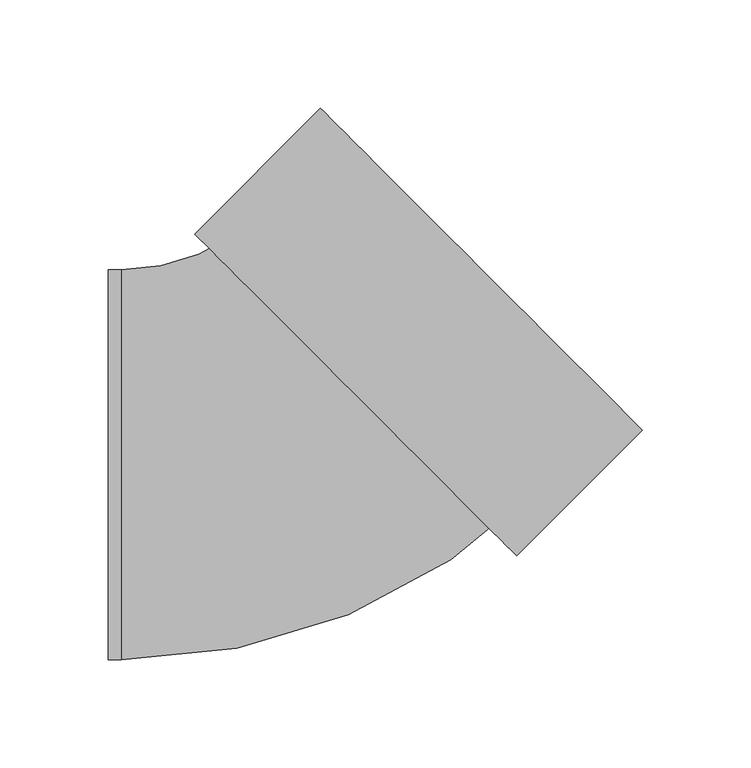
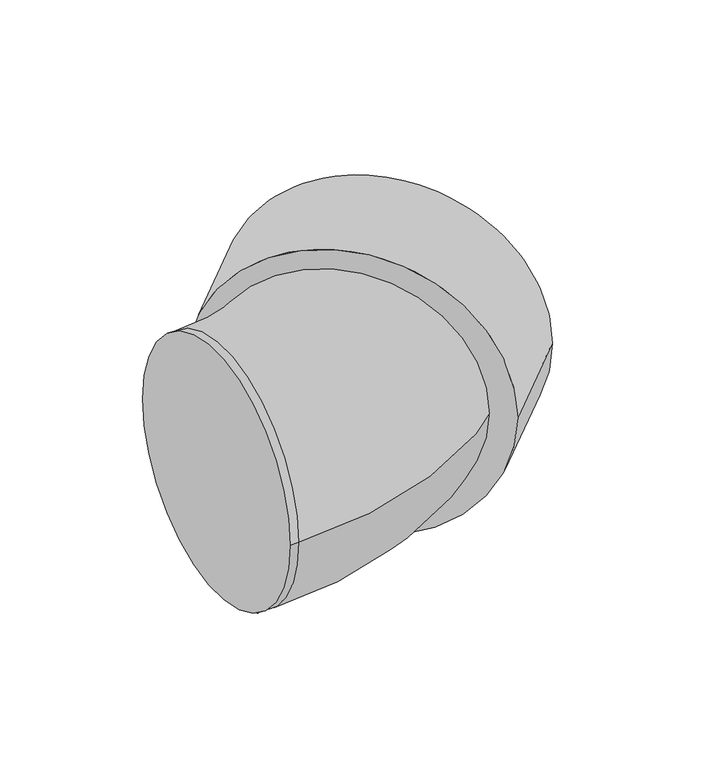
"""IFC4 building model written with IfcOpenShell, lengths in millimetres: duct fitting geometry, NLRS_57_DUF_UN_bend EPP_M&G : ø125 - ø180."""

from ifc_helpers import new_model, si_unit, point, frame, origin, place, context, project, spatial, polyline, circle_curve, ellipse_curve, trimmed, source, transform, mapped, element, save
from ifc_brep_helpers import plane_surface, cylinder_surface, revolved_surface, advanced_brep


def duct_fitting_4bbd28bd(model_context):
    return source(origin(), model_context, "Body", "AdvancedBrep", [
        advanced_brep(
        [(-82.0, -90.0, 0.0), (-82.0, 90.0, 0.0), (-76.0, -90.0, 0.0), (-76.0, 90.0, 0.0), (-9.8994949, 117.3797257, 0.0), (117.3797257, -9.8994949, 0.0), (125.5114537, -1.767767, 0.0), (-1.767767, 125.5114537, 0.0)],
        [
            (0, 1, circle_curve(frame((-82.0, 0.0, 0.0), z_axis=(-1.0, 0.0, 0.0), x_axis=(0.0, 1.0, 0.0)), 90.0)),
            (1, 0, circle_curve(frame((-82.0, 0.0, 0.0), z_axis=(-1.0, 0.0, 0.0), x_axis=(0.0, 1.0, 0.0)), 90.0)),
            (0, 2),
            (2, 3, circle_curve(frame((-76.0, 0.0, 0.0), z_axis=(-1.0, 0.0, 0.0), x_axis=(0.0, 1.0, 0.0)), 90.0)),
            (3, 1),
            (3, 2, circle_curve(frame((-76.0, 0.0, 0.0), z_axis=(-1.0, 0.0, 0.0), x_axis=(0.0, 1.0, 0.0)), 90.0)),
            (4, 3, circle_curve(frame((-76.0, 183.4802307, 0.0), z_axis=(0.0, 0.0, -1.0), x_axis=(0.0, -1.0, 0.0)), 93.4802307)),
            (2, 5, circle_curve(frame((-76.0, 183.4802307, 0.0), z_axis=(0.0, 0.0, 1.0), x_axis=(0.0, -1.0, 0.0)), 273.4802307)),
            (5, 4, circle_curve(frame((53.7401154, 53.7401154, 0.0), z_axis=(-0.7071067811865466, -0.7071067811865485, 0.0), x_axis=(-0.7071067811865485, 0.7071067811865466, 0.0)), 90.0)),
            (4, 5, circle_curve(frame((53.7401154, 53.7401154, 0.0), z_axis=(-0.7071067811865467, -0.7071067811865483, 0.0), x_axis=(-0.7071067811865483, 0.7071067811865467, 0.0)), 90.0)),
            (6, 7, circle_curve(frame((61.8718434, 61.8718434, 0.0), z_axis=(0.7071067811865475, 0.7071067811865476, 0.0), x_axis=(-0.7071067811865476, 0.7071067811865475, 0.0)), 90.0)),
            (7, 6, circle_curve(frame((61.8718434, 61.8718434, 0.0), z_axis=(0.7071067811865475, 0.7071067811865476, 0.0), x_axis=(-0.7071067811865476, 0.7071067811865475, 0.0)), 90.0)),
            (5, 6),
            (7, 4),
        ],
        [
            plane_surface(frame((-82.0, 0.0, 0.0), z_axis=(-1.0, 0.0, 0.0), x_axis=(0.0, 0.0, 1.0))),
            cylinder_surface(frame((-82.0, 0.0, 0.0), z_axis=(-1.0, 0.0, 0.0), x_axis=(0.0, 1.0, 0.0)), 90.0),
            revolved_surface(trimmed(ellipse_curve(frame((-76.0, 0.0, 0.0), z_axis=(-1.0, 0.0, 0.0), x_axis=(0.0, 1.0, 0.0)), 90.0, 90.0), [point((-76.0, -90.0, 0.0))], [point((-76.0, 90.0, 0.0))], True, "CARTESIAN"), (-76.0, 183.4802307, 0.0), (0.0, 0.0, 1.0)),
            revolved_surface(trimmed(ellipse_curve(frame((-76.0, 0.0, 0.0), z_axis=(-1.0, 0.0, 0.0), x_axis=(0.0, 1.0, 0.0)), 90.0, 90.0), [point((-76.0, 90.0, 0.0))], [point((-76.0, -90.0, 0.0))], True, "CARTESIAN"), (-76.0, 183.4802307, 0.0), (0.0, 0.0, 1.0)),
            plane_surface(frame((61.8718434, 61.8718434, 0.0), z_axis=(0.7071067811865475, 0.7071067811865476, 0.0), x_axis=(0.0, 0.0, 1.0))),
            cylinder_surface(frame((53.7401154, 53.7401154, 0.0), z_axis=(-0.7071067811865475, -0.7071067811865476, 0.0), x_axis=(-0.7071067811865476, 0.7071067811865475, 0.0)), 90.0),
        ],
        [
            (0, [[1, 2]]),
            (1, [[-1, 3, 4, 5]]),
            (1, [[-2, -5, 6, -3]]),
            (2, [[7, -4, 8, 9]]),
            (3, [[-8, -6, -7, 10]]),
            (4, [[11, 12]]),
            (5, [[-9, 13, -12, 14]]),
            (5, [[-10, -14, -11, -13]]),
        ],
    ),
        advanced_brep(
        [(106.4195706, -42.0728535, 0.0), (-42.0728535, 106.4195706, 0.0), (164.4023266, 15.9099026, 0.0), (15.9099026, 164.4023266, 0.0), (153.7957249, 26.5165043, 0.0), (26.5165043, 153.7957249, 0.0), (125.5114537, -1.767767, 0.0), (-1.767767, 125.5114537, 0.0)],
        [
            (0, 1, circle_curve(frame((32.1733585, 32.1733585, 0.0), z_axis=(-0.7071067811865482, -0.7071067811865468, 0.0), x_axis=(-0.7071067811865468, 0.7071067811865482, 0.0)), 105.0)),
            (1, 0, circle_curve(frame((32.1733585, 32.1733585, 0.0), z_axis=(-0.7071067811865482, -0.7071067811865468, 0.0), x_axis=(-0.7071067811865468, 0.7071067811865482, 0.0)), 105.0)),
            (2, 3, circle_curve(frame((90.1561146, 90.1561146, 0.0), z_axis=(0.7071067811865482, 0.7071067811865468, 0.0), x_axis=(-0.7071067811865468, 0.7071067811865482, 0.0)), 105.0)),
            (3, 2, circle_curve(frame((90.1561146, 90.1561146, 0.0), z_axis=(0.7071067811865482, 0.7071067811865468, 0.0), x_axis=(-0.7071067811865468, 0.7071067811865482, 0.0)), 105.0)),
            (4, 5, circle_curve(frame((90.1561146, 90.1561146, 0.0), z_axis=(-0.7071067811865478, -0.7071067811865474, 0.0), x_axis=(-0.7071067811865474, 0.7071067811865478, 0.0)), 90.0)),
            (5, 4, circle_curve(frame((90.1561146, 90.1561146, 0.0), z_axis=(-0.7071067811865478, -0.7071067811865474, 0.0), x_axis=(-0.7071067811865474, 0.7071067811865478, 0.0)), 90.0)),
            (0, 2),
            (3, 1),
            (6, 7, circle_curve(frame((61.8718434, 61.8718434, 0.0), z_axis=(0.7071067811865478, 0.7071067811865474, 0.0), x_axis=(-0.7071067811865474, 0.7071067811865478, 0.0)), 90.0)),
            (7, 6, circle_curve(frame((61.8718434, 61.8718434, 0.0), z_axis=(0.7071067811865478, 0.7071067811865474, 0.0), x_axis=(-0.7071067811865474, 0.7071067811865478, 0.0)), 90.0)),
            (7, 5),
            (4, 6),
        ],
        [
            plane_surface(frame((32.1733585, 32.1733585, 0.0), z_axis=(-0.7071067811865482, -0.7071067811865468, 0.0), x_axis=(0.0, 0.0, 1.0))),
            plane_surface(frame((90.1561146, 90.1561146, 0.0), z_axis=(0.7071067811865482, 0.7071067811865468, 0.0), x_axis=(0.0, 0.0, 1.0))),
            cylinder_surface(frame((32.1733585, 32.1733585, 0.0), z_axis=(-0.7071067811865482, -0.7071067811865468, 0.0), x_axis=(-0.7071067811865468, 0.7071067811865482, 0.0)), 105.0),
            plane_surface(frame((61.8718434, 61.8718434, 0.0), z_axis=(0.7071067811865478, 0.7071067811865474, 0.0), x_axis=(0.0, 0.0, 1.0))),
            revolved_surface(polyline([(-1.767766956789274, 125.51145365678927, 0.0), (26.516504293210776, 153.7957249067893, 0.0)]), (61.8718434, 61.8718434, 0.0), (-0.7071067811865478, -0.7071067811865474, 0.0)),
        ],
        [
            (0, [[1, 2]]),
            (1, [[3, 4], [5, 6]]),
            (2, [[-1, 7, -4, 8]]),
            (2, [[-2, -8, -3, -7]]),
            (3, [[9, 10]]),
            (4, [[-10, 11, -5, 12]]),
            (4, [[-9, -12, -6, -11]]),
        ],
    ),
    ])


if __name__ == "__main__":
    model = new_model("IFC4")
    model_context = context("Model", 3, world=origin())
    ifc_project = project(units=[si_unit("LENGTHUNIT", "METRE", prefix="MILLI")], contexts=[model_context])
    site = spatial("IfcSite", under=ifc_project)
    building = spatial("IfcBuilding", under=site)
    placement = place(None, origin())
    duct_fitting_shape = duct_fitting_4bbd28bd(model_context)
    element("IfcDuctFitting", 1, ObjectType="NLRS_57_DUF_UN_bend EPP_M&G : ø125 - ø180", at=placement, inside=building, context=model_context, shape_type="MappedRepresentation", body=[
        mapped(duct_fitting_shape, transform((0.0, 0.0, 0.0), x_axis=(1.0, 0.0, 0.0), y_axis=(0.0, 1.0, 0.0), z_axis=(0.0, 0.0, 1.0))),
    ])
    save(model, "model.ifc")
